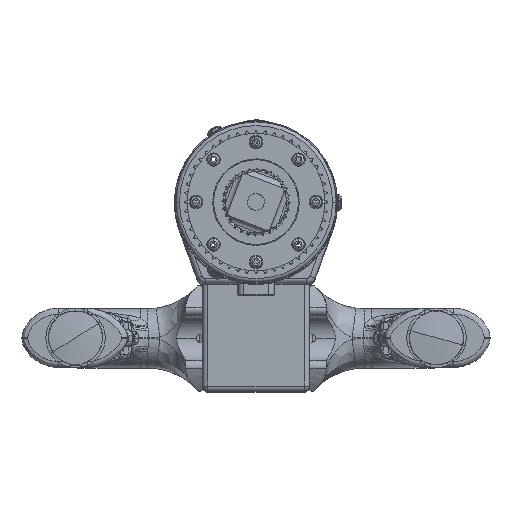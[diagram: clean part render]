
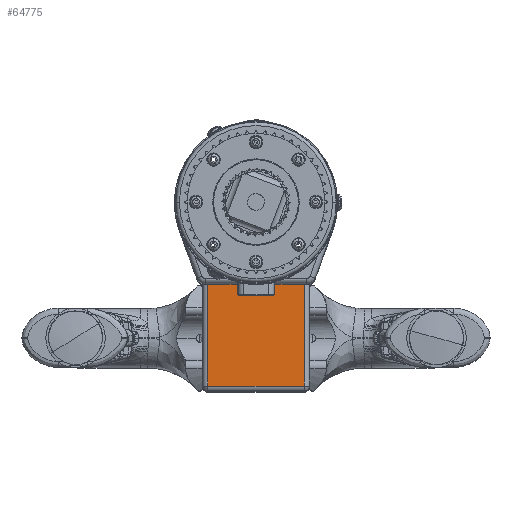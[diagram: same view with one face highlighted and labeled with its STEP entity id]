
A CAD part, top view. The second image highlights one B-rep face of the part: STEP entity #64775.
In plain terms, the highlighted planar face has unit normal (0, 0, 1).
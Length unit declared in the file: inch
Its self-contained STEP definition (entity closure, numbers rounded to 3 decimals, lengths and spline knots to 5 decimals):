
#10 = DIRECTION ( 'NONE',  ( -1., 0., 0. ) ) ;
#3423 = DIRECTION ( 'NONE',  ( -1., 0., 0. ) ) ;
#4385 = CARTESIAN_POINT ( 'NONE',  ( 0.375, -2.04, 0. ) ) ;
#6547 = VECTOR ( 'NONE', #41527, 39.37008 ) ;
#7848 = ORIENTED_EDGE ( 'NONE', *, *, #92491, .T. ) ;
#8491 = CARTESIAN_POINT ( 'NONE',  ( -0.375, -1.8, 0. ) ) ;
#8842 = DIRECTION ( 'NONE',  ( 1., 0., 0. ) ) ;
#9806 = CARTESIAN_POINT ( 'NONE',  ( -0.375, -2.04, 0. ) ) ;
#10219 = VERTEX_POINT ( 'NONE', #9806 ) ;
#10430 = LINE ( 'NONE', #24487, #41100 ) ;
#10581 = ORIENTED_EDGE ( 'NONE', *, *, #14990, .F. ) ;
#12072 = VERTEX_POINT ( 'NONE', #57376 ) ;
#12884 = ORIENTED_EDGE ( 'NONE', *, *, #36080, .T. ) ;
#12928 = CARTESIAN_POINT ( 'NONE',  ( -1.0625, -4.175, 0. ) ) ;
#14990 = EDGE_CURVE ( 'NONE', #90695, #59185, #59911, .T. ) ;
#15728 = VERTEX_POINT ( 'NONE', #45164 ) ;
#16114 = VERTEX_POINT ( 'NONE', #8491 ) ;
#17776 = CARTESIAN_POINT ( 'NONE',  ( 1.1875, -4.05, 0. ) ) ;
#18901 = ORIENTED_EDGE ( 'NONE', *, *, #55890, .T. ) ;
#20440 = LINE ( 'NONE', #12928, #6547 ) ;
#22962 = CARTESIAN_POINT ( 'NONE',  ( 0., -2.9875, 0. ) ) ;
#24487 = CARTESIAN_POINT ( 'NONE',  ( -1.1875, -1.8, 0. ) ) ;
#26530 = VECTOR ( 'NONE', #81467, 39.37008 ) ;
#26783 = EDGE_CURVE ( 'NONE', #64450, #89279, #32304, .T. ) ;
#27275 = CARTESIAN_POINT ( 'NONE',  ( 0.375, -1.8, 0. ) ) ;
#28604 = DIRECTION ( 'NONE',  ( 1., 0., 0. ) ) ;
#28890 = VECTOR ( 'NONE', #73719, 39.37008 ) ;
#30681 = EDGE_LOOP ( 'NONE', ( #10581, #40798, #35027, #18901, #7848, #41590, #37505, #12884 ) ) ;
#32304 = LINE ( 'NONE', #17776, #52920 ) ;
#33905 = EDGE_CURVE ( 'NONE', #16114, #10219, #80750, .T. ) ;
#35027 = ORIENTED_EDGE ( 'NONE', *, *, #33905, .F. ) ;
#35648 = DIRECTION ( 'NONE',  ( 0., 0., 1. ) ) ;
#36071 = CARTESIAN_POINT ( 'NONE',  ( -1.1875, -1.8, 0. ) ) ;
#36080 = EDGE_CURVE ( 'NONE', #12072, #59185, #10430, .T. ) ;
#37505 = ORIENTED_EDGE ( 'NONE', *, *, #63651, .T. ) ;
#40798 = ORIENTED_EDGE ( 'NONE', *, *, #57371, .F. ) ;
#41100 = VECTOR ( 'NONE', #3423, 39.37008 ) ;
#41527 = DIRECTION ( 'NONE',  ( 0., -1., 0. ) ) ;
#41590 = ORIENTED_EDGE ( 'NONE', *, *, #26783, .T. ) ;
#44030 = LINE ( 'NONE', #52001, #63391 ) ;
#44414 = VECTOR ( 'NONE', #59627, 39.37008 ) ;
#45164 = CARTESIAN_POINT ( 'NONE',  ( -1.0625, -1.8, 0. ) ) ;
#52001 = CARTESIAN_POINT ( 'NONE',  ( -0.375, -2.04, 0. ) ) ;
#52920 = VECTOR ( 'NONE', #74984, 39.37008 ) ;
#55890 = EDGE_CURVE ( 'NONE', #16114, #15728, #70796, .T. ) ;
#57371 = EDGE_CURVE ( 'NONE', #10219, #90695, #44030, .T. ) ;
#57376 = CARTESIAN_POINT ( 'NONE',  ( 1.0625, -1.8, 0. ) ) ;
#58965 = CARTESIAN_POINT ( 'NONE',  ( 1.0625, -4.05, 0. ) ) ;
#59185 = VERTEX_POINT ( 'NONE', #27275 ) ;
#59627 = DIRECTION ( 'NONE',  ( 0., 1., 0. ) ) ;
#59911 = LINE ( 'NONE', #88470, #26530 ) ;
#63391 = VECTOR ( 'NONE', #8842, 39.37008 ) ;
#63651 = EDGE_CURVE ( 'NONE', #89279, #12072, #81646, .T. ) ;
#64450 = VERTEX_POINT ( 'NONE', #73703 ) ;
#64775 = ADVANCED_FACE ( 'NONE', ( #69912 ), #91917, .T. ) ;
#69912 = FACE_OUTER_BOUND ( 'NONE', #30681, .T. ) ;
#70796 = LINE ( 'NONE', #36071, #78375 ) ;
#71379 = AXIS2_PLACEMENT_3D ( 'NONE', #22962, #35648, #28604 ) ;
#73703 = CARTESIAN_POINT ( 'NONE',  ( -1.0625, -4.05, 0. ) ) ;
#73719 = DIRECTION ( 'NONE',  ( 0., -1., 0. ) ) ;
#74984 = DIRECTION ( 'NONE',  ( 1., 0., 0. ) ) ;
#78375 = VECTOR ( 'NONE', #10, 39.37008 ) ;
#80750 = LINE ( 'NONE', #87771, #28890 ) ;
#81180 = CARTESIAN_POINT ( 'NONE',  ( 1.0625, -1.8, 0. ) ) ;
#81467 = DIRECTION ( 'NONE',  ( 0., 1., 0. ) ) ;
#81646 = LINE ( 'NONE', #81180, #44414 ) ;
#87771 = CARTESIAN_POINT ( 'NONE',  ( -0.375, -1.8, 0. ) ) ;
#88470 = CARTESIAN_POINT ( 'NONE',  ( 0.375, -1.8, 0. ) ) ;
#89279 = VERTEX_POINT ( 'NONE', #58965 ) ;
#90695 = VERTEX_POINT ( 'NONE', #4385 ) ;
#91917 = PLANE ( 'NONE',  #71379 ) ;
#92491 = EDGE_CURVE ( 'NONE', #15728, #64450, #20440, .T. ) ;
